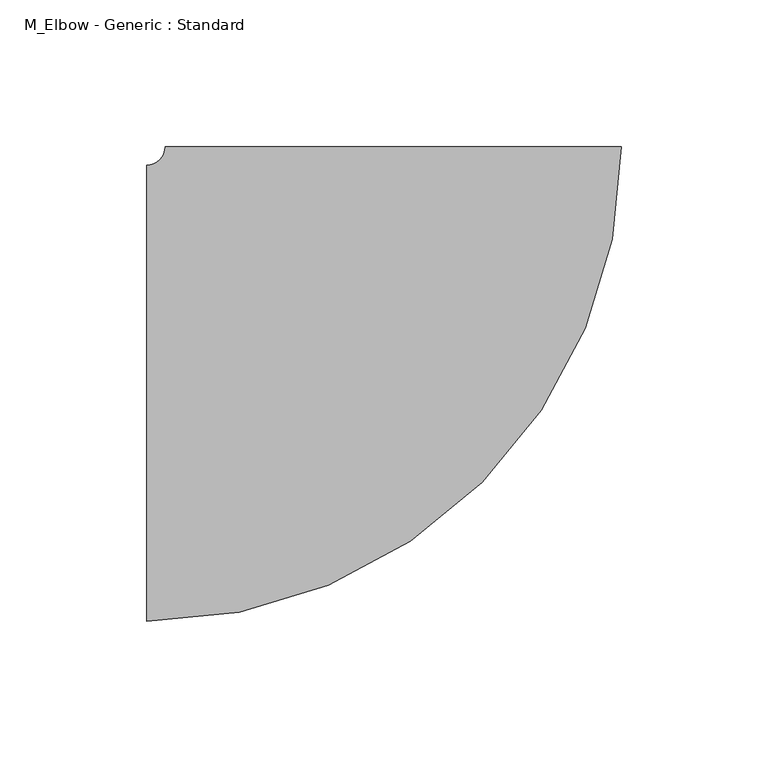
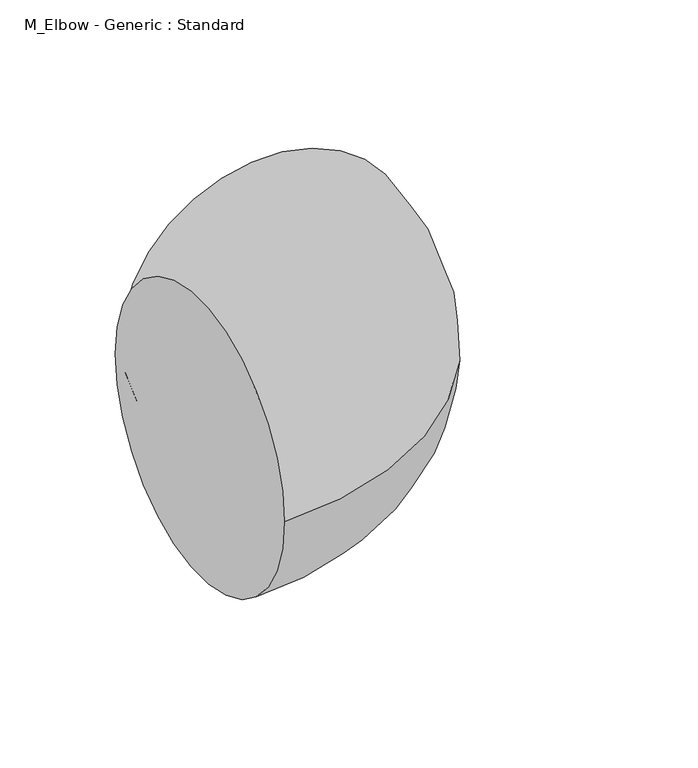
"""IFC4 building model written with IfcOpenShell, lengths in millimetres: pipe fitting geometry, M_Elbow - Generic : Standard."""

from ifc_helpers import new_model, si_unit, point, frame, origin, place, context, project, spatial, circle_curve, ellipse_curve, trimmed, source, transform, mapped, element, save
from ifc_brep_helpers import plane_surface, revolved_surface, advanced_brep


def m_elbow_generic_standard_1652de39(model_context):
    return source(origin(), model_context, "Body", "AdvancedBrep", [
        advanced_brep(
        [(-84.1375, -77.7875, 0.0), (-84.1375, 77.7875, 0.0), (77.7875, 84.1375, 0.0), (-77.7875, 84.1375, 0.0)],
        [
            (0, 1, circle_curve(frame((-84.1375, 0.0, 0.0), z_axis=(-1.0, 0.0, 0.0), x_axis=(0.0, 1.0, 0.0)), 77.7875)),
            (1, 0, circle_curve(frame((-84.1375, 0.0, 0.0), z_axis=(-1.0, 0.0, 0.0), x_axis=(0.0, 1.0, 0.0)), 77.7875)),
            (2, 3, circle_curve(frame((0.0, 84.1375, 0.0), z_axis=(0.0, 1.0, 0.0), x_axis=(-1.0, 0.0, 0.0)), 77.7875)),
            (3, 2, circle_curve(frame((0.0, 84.1375, 0.0), z_axis=(0.0, 1.0, 0.0), x_axis=(-1.0, 0.0, 0.0)), 77.7875)),
            (3, 1, circle_curve(frame((-84.1375, 84.1375, 0.0), z_axis=(0.0, 0.0, -1.0), x_axis=(0.0, -1.0, 0.0)), 6.35)),
            (0, 2, circle_curve(frame((-84.1375, 84.1375, 0.0), z_axis=(0.0, 0.0, 1.0), x_axis=(0.0, -1.0, 0.0)), 161.925)),
        ],
        [
            plane_surface(frame((-84.1375, 0.0, 0.0), z_axis=(-1.0, 0.0, 0.0), x_axis=(0.0, 0.0, 1.0))),
            plane_surface(frame((0.0, 84.1375, 0.0), z_axis=(0.0, 1.0, 0.0), x_axis=(0.0, 0.0, 1.0))),
            revolved_surface(trimmed(ellipse_curve(frame((-84.1375, 0.0, 0.0), z_axis=(-1.0, 0.0, 0.0), x_axis=(0.0, 1.0, 0.0)), 77.7875, 77.7875), [point((-84.1375, -77.7875, 0.0))], [point((-84.1375, 77.7875, 0.0))], True, "CARTESIAN"), (-84.1375, 84.1375, 0.0), (0.0, 0.0, 1.0)),
            revolved_surface(trimmed(ellipse_curve(frame((-84.1375, 0.0, 0.0), z_axis=(-1.0, 0.0, 0.0), x_axis=(0.0, 1.0, 0.0)), 77.7875, 77.7875), [point((-84.1375, 77.7875, 0.0))], [point((-84.1375, -77.7875, 0.0))], True, "CARTESIAN"), (-84.1375, 84.1375, 0.0), (0.0, 0.0, 1.0)),
        ],
        [
            (0, [[1, 2]]),
            (1, [[3, 4]]),
            (2, [[5, -1, 6, -4]]),
            (3, [[-6, -2, -5, -3]]),
        ],
    ),
        advanced_brep(
        [(-84.1375, -77.7875, 0.0), (-84.1375, 77.7875, 0.0), (77.7875, 84.1375, 0.0), (-77.7875, 84.1375, 0.0)],
        [
            (0, 1, circle_curve(frame((-84.1375, 0.0, 0.0), z_axis=(-1.0, 0.0, 0.0), x_axis=(0.0, 1.0, 0.0)), 77.7875)),
            (1, 0, circle_curve(frame((-84.1375, 0.0, 0.0), z_axis=(-1.0, 0.0, 0.0), x_axis=(0.0, 1.0, 0.0)), 77.7875)),
            (2, 3, circle_curve(frame((0.0, 84.1375, 0.0), z_axis=(0.0, 1.0, 0.0), x_axis=(-1.0, 0.0, 0.0)), 77.7875)),
            (3, 2, circle_curve(frame((0.0, 84.1375, 0.0), z_axis=(0.0, 1.0, 0.0), x_axis=(-1.0, 0.0, 0.0)), 77.7875)),
            (3, 1, circle_curve(frame((-84.1375, 84.1375, 0.0), z_axis=(0.0, 0.0, -1.0), x_axis=(0.0, -1.0, 0.0)), 6.35)),
            (0, 2, circle_curve(frame((-84.1375, 84.1375, 0.0), z_axis=(0.0, 0.0, 1.0), x_axis=(0.0, -1.0, 0.0)), 161.925)),
        ],
        [
            plane_surface(frame((-84.1375, 0.0, 0.0), z_axis=(-1.0, 0.0, 0.0), x_axis=(0.0, 0.0, 1.0))),
            plane_surface(frame((0.0, 84.1375, 0.0), z_axis=(0.0, 1.0, 0.0), x_axis=(0.0, 0.0, 1.0))),
            revolved_surface(trimmed(ellipse_curve(frame((-84.1375, 0.0, 0.0), z_axis=(-1.0, 0.0, 0.0), x_axis=(0.0, 1.0, 0.0)), 77.7875, 77.7875), [point((-84.1375, -77.7875, 0.0))], [point((-84.1375, 77.7875, 0.0))], True, "CARTESIAN"), (-84.1375, 84.1375, 0.0), (0.0, 0.0, 1.0)),
            revolved_surface(trimmed(ellipse_curve(frame((-84.1375, 0.0, 0.0), z_axis=(-1.0, 0.0, 0.0), x_axis=(0.0, 1.0, 0.0)), 77.7875, 77.7875), [point((-84.1375, 77.7875, 0.0))], [point((-84.1375, -77.7875, 0.0))], True, "CARTESIAN"), (-84.1375, 84.1375, 0.0), (0.0, 0.0, 1.0)),
        ],
        [
            (0, [[1, 2]]),
            (1, [[3, 4]]),
            (2, [[5, -1, 6, -4]]),
            (3, [[-6, -2, -5, -3]]),
        ],
    ),
    ])


if __name__ == "__main__":
    model = new_model("IFC4")
    model_context = context("Model", 3, world=origin())
    ifc_project = project(units=[si_unit("LENGTHUNIT", "METRE", prefix="MILLI")], contexts=[model_context])
    site = spatial("IfcSite", under=ifc_project)
    building = spatial("IfcBuilding", under=site)
    placement = place(None, origin())
    m_elbow_generic_standard_shape = m_elbow_generic_standard_1652de39(model_context)
    element("IfcPipeFitting", 1, ObjectType="M_Elbow - Generic : Standard", at=placement, inside=building, context=model_context, shape_type="MappedRepresentation", body=[
        mapped(m_elbow_generic_standard_shape, transform((0.0, 0.0, 0.0), x_axis=(1.0, 0.0, 0.0), y_axis=(0.0, 1.0, 0.0), z_axis=(0.0, 0.0, 1.0))),
    ])
    save(model, "model.ifc")
